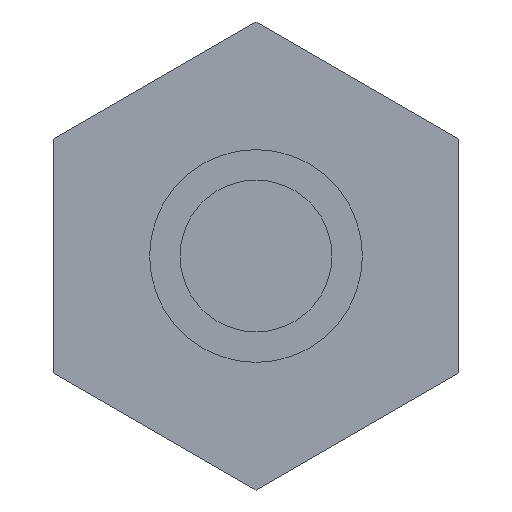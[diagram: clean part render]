
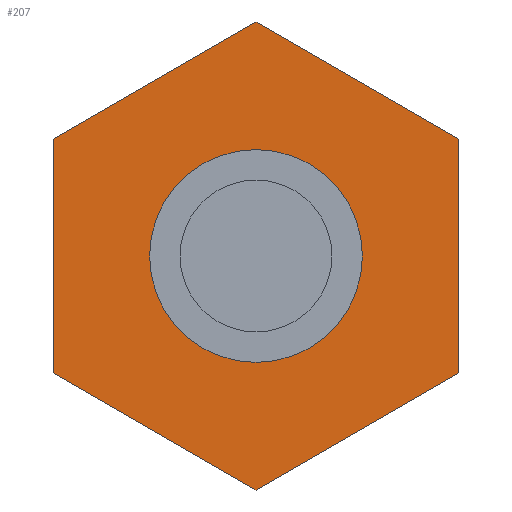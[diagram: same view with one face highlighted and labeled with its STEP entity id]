
A CAD part, left-side view. The second image highlights one B-rep face of the part: STEP entity #207.
In plain terms, the highlighted planar face has unit normal (-1, 0, 0).
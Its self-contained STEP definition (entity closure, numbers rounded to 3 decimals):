
#134 = CYLINDRICAL_SURFACE('',#135,2.1);
#135 = AXIS2_PLACEMENT_3D('',#136,#137,#138);
#136 = CARTESIAN_POINT('',(44.893,0.,232.));
#137 = DIRECTION('',(-1.,-0.,0.));
#138 = DIRECTION('',(0.,0.,-1.));
#154 = VERTEX_POINT('',#155);
#155 = CARTESIAN_POINT('',(48.903,0.,229.9));
#176 = EDGE_CURVE('',#154,#154,#177,.T.);
#177 = SURFACE_CURVE('',#178,(#183,#190),.PCURVE_S1.);
#178 = CIRCLE('',#179,2.1);
#179 = AXIS2_PLACEMENT_3D('',#180,#181,#182);
#180 = CARTESIAN_POINT('',(48.903,0.,232.));
#181 = DIRECTION('',(-1.,-0.,0.));
#182 = DIRECTION('',(0.,0.,-1.));
#183 = PCURVE('',#134,#184);
#184 = DEFINITIONAL_REPRESENTATION('',(#185),#189);
#185 = LINE('',#186,#187);
#186 = CARTESIAN_POINT('',(-6.283,-4.01));
#187 = VECTOR('',#188,1.);
#188 = DIRECTION('',(1.,-0.));
#189 = ( GEOMETRIC_REPRESENTATION_CONTEXT(2) 
PARAMETRIC_REPRESENTATION_CONTEXT() REPRESENTATION_CONTEXT('2D SPACE',''
  ) );
#190 = PCURVE('',#191,#196);
#191 = PLANE('',#192);
#192 = AXIS2_PLACEMENT_3D('',#193,#194,#195);
#193 = CARTESIAN_POINT('',(48.903,0.,232.));
#194 = DIRECTION('',(1.,0.,0.));
#195 = DIRECTION('',(0.,0.,-1.));
#196 = DEFINITIONAL_REPRESENTATION('',(#197),#205);
#197 = ( BOUNDED_CURVE() B_SPLINE_CURVE(2,(#198,#199,#200,#201,#202,#203
,#204),.UNSPECIFIED.,.T.,.F.) B_SPLINE_CURVE_WITH_KNOTS((1,2,2,2,2,1),(
    -2.094,0.,2.094,4.189,6.283,
8.378),.UNSPECIFIED.) CURVE() GEOMETRIC_REPRESENTATION_ITEM() 
RATIONAL_B_SPLINE_CURVE((1.,0.5,1.,0.5,1.,0.5,1.)) REPRESENTATION_ITEM(
  '') );
#198 = CARTESIAN_POINT('',(2.1,0.));
#199 = CARTESIAN_POINT('',(2.1,-3.637));
#200 = CARTESIAN_POINT('',(-1.05,-1.819));
#201 = CARTESIAN_POINT('',(-4.2,0.));
#202 = CARTESIAN_POINT('',(-1.05,1.819));
#203 = CARTESIAN_POINT('',(2.1,3.637));
#204 = CARTESIAN_POINT('',(2.1,0.));
#205 = ( GEOMETRIC_REPRESENTATION_CONTEXT(2) 
PARAMETRIC_REPRESENTATION_CONTEXT() REPRESENTATION_CONTEXT('2D SPACE',''
  ) );
#207 = ADVANCED_FACE('',(#208,#378),#191,.F.);
#208 = FACE_BOUND('',#209,.F.);
#209 = EDGE_LOOP('',(#210,#240,#268,#296,#324,#352));
#210 = ORIENTED_EDGE('',*,*,#211,.T.);
#211 = EDGE_CURVE('',#212,#214,#216,.T.);
#212 = VERTEX_POINT('',#213);
#213 = CARTESIAN_POINT('',(48.903,0.,227.381));
#214 = VERTEX_POINT('',#215);
#215 = CARTESIAN_POINT('',(48.903,4.,229.691));
#216 = SURFACE_CURVE('',#217,(#221,#228),.PCURVE_S1.);
#217 = LINE('',#218,#219);
#218 = CARTESIAN_POINT('',(48.903,0.,227.381));
#219 = VECTOR('',#220,1.);
#220 = DIRECTION('',(0.,0.866,0.5));
#221 = PCURVE('',#191,#222);
#222 = DEFINITIONAL_REPRESENTATION('',(#223),#227);
#223 = LINE('',#224,#225);
#224 = CARTESIAN_POINT('',(4.619,0.));
#225 = VECTOR('',#226,1.);
#226 = DIRECTION('',(-0.5,0.866));
#227 = ( GEOMETRIC_REPRESENTATION_CONTEXT(2) 
PARAMETRIC_REPRESENTATION_CONTEXT() REPRESENTATION_CONTEXT('2D SPACE',''
  ) );
#228 = PCURVE('',#229,#234);
#229 = PLANE('',#230);
#230 = AXIS2_PLACEMENT_3D('',#231,#232,#233);
#231 = CARTESIAN_POINT('',(48.903,0.,227.381));
#232 = DIRECTION('',(0.,-0.5,0.866));
#233 = DIRECTION('',(0.,0.866,0.5));
#234 = DEFINITIONAL_REPRESENTATION('',(#235),#239);
#235 = LINE('',#236,#237);
#236 = CARTESIAN_POINT('',(0.,0.));
#237 = VECTOR('',#238,1.);
#238 = DIRECTION('',(1.,0.));
#239 = ( GEOMETRIC_REPRESENTATION_CONTEXT(2) 
PARAMETRIC_REPRESENTATION_CONTEXT() REPRESENTATION_CONTEXT('2D SPACE',''
  ) );
#240 = ORIENTED_EDGE('',*,*,#241,.T.);
#241 = EDGE_CURVE('',#214,#242,#244,.T.);
#242 = VERTEX_POINT('',#243);
#243 = CARTESIAN_POINT('',(48.903,4.,234.309));
#244 = SURFACE_CURVE('',#245,(#249,#256),.PCURVE_S1.);
#245 = LINE('',#246,#247);
#246 = CARTESIAN_POINT('',(48.903,4.,229.691));
#247 = VECTOR('',#248,1.);
#248 = DIRECTION('',(0.,0.,1.));
#249 = PCURVE('',#191,#250);
#250 = DEFINITIONAL_REPRESENTATION('',(#251),#255);
#251 = LINE('',#252,#253);
#252 = CARTESIAN_POINT('',(2.309,4.));
#253 = VECTOR('',#254,1.);
#254 = DIRECTION('',(-1.,0.));
#255 = ( GEOMETRIC_REPRESENTATION_CONTEXT(2) 
PARAMETRIC_REPRESENTATION_CONTEXT() REPRESENTATION_CONTEXT('2D SPACE',''
  ) );
#256 = PCURVE('',#257,#262);
#257 = PLANE('',#258);
#258 = AXIS2_PLACEMENT_3D('',#259,#260,#261);
#259 = CARTESIAN_POINT('',(48.903,4.,229.691));
#260 = DIRECTION('',(0.,-1.,0.));
#261 = DIRECTION('',(0.,0.,1.));
#262 = DEFINITIONAL_REPRESENTATION('',(#263),#267);
#263 = LINE('',#264,#265);
#264 = CARTESIAN_POINT('',(0.,0.));
#265 = VECTOR('',#266,1.);
#266 = DIRECTION('',(1.,0.));
#267 = ( GEOMETRIC_REPRESENTATION_CONTEXT(2) 
PARAMETRIC_REPRESENTATION_CONTEXT() REPRESENTATION_CONTEXT('2D SPACE',''
  ) );
#268 = ORIENTED_EDGE('',*,*,#269,.T.);
#269 = EDGE_CURVE('',#242,#270,#272,.T.);
#270 = VERTEX_POINT('',#271);
#271 = CARTESIAN_POINT('',(48.903,0.,
    236.619));
#272 = SURFACE_CURVE('',#273,(#277,#284),.PCURVE_S1.);
#273 = LINE('',#274,#275);
#274 = CARTESIAN_POINT('',(48.903,4.,234.309));
#275 = VECTOR('',#276,1.);
#276 = DIRECTION('',(0.,-0.866,0.5));
#277 = PCURVE('',#191,#278);
#278 = DEFINITIONAL_REPRESENTATION('',(#279),#283);
#279 = LINE('',#280,#281);
#280 = CARTESIAN_POINT('',(-2.309,4.));
#281 = VECTOR('',#282,1.);
#282 = DIRECTION('',(-0.5,-0.866));
#283 = ( GEOMETRIC_REPRESENTATION_CONTEXT(2) 
PARAMETRIC_REPRESENTATION_CONTEXT() REPRESENTATION_CONTEXT('2D SPACE',''
  ) );
#284 = PCURVE('',#285,#290);
#285 = PLANE('',#286);
#286 = AXIS2_PLACEMENT_3D('',#287,#288,#289);
#287 = CARTESIAN_POINT('',(48.903,4.,234.309));
#288 = DIRECTION('',(0.,-0.5,-0.866));
#289 = DIRECTION('',(0.,-0.866,0.5));
#290 = DEFINITIONAL_REPRESENTATION('',(#291),#295);
#291 = LINE('',#292,#293);
#292 = CARTESIAN_POINT('',(0.,0.));
#293 = VECTOR('',#294,1.);
#294 = DIRECTION('',(1.,0.));
#295 = ( GEOMETRIC_REPRESENTATION_CONTEXT(2) 
PARAMETRIC_REPRESENTATION_CONTEXT() REPRESENTATION_CONTEXT('2D SPACE',''
  ) );
#296 = ORIENTED_EDGE('',*,*,#297,.T.);
#297 = EDGE_CURVE('',#270,#298,#300,.T.);
#298 = VERTEX_POINT('',#299);
#299 = CARTESIAN_POINT('',(48.903,-4.,234.309));
#300 = SURFACE_CURVE('',#301,(#305,#312),.PCURVE_S1.);
#301 = LINE('',#302,#303);
#302 = CARTESIAN_POINT('',(48.903,0.,
    236.619));
#303 = VECTOR('',#304,1.);
#304 = DIRECTION('',(0.,-0.866,-0.5));
#305 = PCURVE('',#191,#306);
#306 = DEFINITIONAL_REPRESENTATION('',(#307),#311);
#307 = LINE('',#308,#309);
#308 = CARTESIAN_POINT('',(-4.619,0.));
#309 = VECTOR('',#310,1.);
#310 = DIRECTION('',(0.5,-0.866));
#311 = ( GEOMETRIC_REPRESENTATION_CONTEXT(2) 
PARAMETRIC_REPRESENTATION_CONTEXT() REPRESENTATION_CONTEXT('2D SPACE',''
  ) );
#312 = PCURVE('',#313,#318);
#313 = PLANE('',#314);
#314 = AXIS2_PLACEMENT_3D('',#315,#316,#317);
#315 = CARTESIAN_POINT('',(48.903,0.,
    236.619));
#316 = DIRECTION('',(0.,0.5,-0.866));
#317 = DIRECTION('',(0.,-0.866,-0.5));
#318 = DEFINITIONAL_REPRESENTATION('',(#319),#323);
#319 = LINE('',#320,#321);
#320 = CARTESIAN_POINT('',(0.,0.));
#321 = VECTOR('',#322,1.);
#322 = DIRECTION('',(1.,0.));
#323 = ( GEOMETRIC_REPRESENTATION_CONTEXT(2) 
PARAMETRIC_REPRESENTATION_CONTEXT() REPRESENTATION_CONTEXT('2D SPACE',''
  ) );
#324 = ORIENTED_EDGE('',*,*,#325,.T.);
#325 = EDGE_CURVE('',#298,#326,#328,.T.);
#326 = VERTEX_POINT('',#327);
#327 = CARTESIAN_POINT('',(48.903,-4.,229.691));
#328 = SURFACE_CURVE('',#329,(#333,#340),.PCURVE_S1.);
#329 = LINE('',#330,#331);
#330 = CARTESIAN_POINT('',(48.903,-4.,234.309));
#331 = VECTOR('',#332,1.);
#332 = DIRECTION('',(0.,0.,-1.));
#333 = PCURVE('',#191,#334);
#334 = DEFINITIONAL_REPRESENTATION('',(#335),#339);
#335 = LINE('',#336,#337);
#336 = CARTESIAN_POINT('',(-2.309,-4.));
#337 = VECTOR('',#338,1.);
#338 = DIRECTION('',(1.,0.));
#339 = ( GEOMETRIC_REPRESENTATION_CONTEXT(2) 
PARAMETRIC_REPRESENTATION_CONTEXT() REPRESENTATION_CONTEXT('2D SPACE',''
  ) );
#340 = PCURVE('',#341,#346);
#341 = PLANE('',#342);
#342 = AXIS2_PLACEMENT_3D('',#343,#344,#345);
#343 = CARTESIAN_POINT('',(48.903,-4.,234.309));
#344 = DIRECTION('',(0.,1.,0.));
#345 = DIRECTION('',(0.,0.,-1.));
#346 = DEFINITIONAL_REPRESENTATION('',(#347),#351);
#347 = LINE('',#348,#349);
#348 = CARTESIAN_POINT('',(0.,0.));
#349 = VECTOR('',#350,1.);
#350 = DIRECTION('',(1.,0.));
#351 = ( GEOMETRIC_REPRESENTATION_CONTEXT(2) 
PARAMETRIC_REPRESENTATION_CONTEXT() REPRESENTATION_CONTEXT('2D SPACE',''
  ) );
#352 = ORIENTED_EDGE('',*,*,#353,.T.);
#353 = EDGE_CURVE('',#326,#212,#354,.T.);
#354 = SURFACE_CURVE('',#355,(#359,#366),.PCURVE_S1.);
#355 = LINE('',#356,#357);
#356 = CARTESIAN_POINT('',(48.903,-4.,229.691));
#357 = VECTOR('',#358,1.);
#358 = DIRECTION('',(0.,0.866,-0.5));
#359 = PCURVE('',#191,#360);
#360 = DEFINITIONAL_REPRESENTATION('',(#361),#365);
#361 = LINE('',#362,#363);
#362 = CARTESIAN_POINT('',(2.309,-4.));
#363 = VECTOR('',#364,1.);
#364 = DIRECTION('',(0.5,0.866));
#365 = ( GEOMETRIC_REPRESENTATION_CONTEXT(2) 
PARAMETRIC_REPRESENTATION_CONTEXT() REPRESENTATION_CONTEXT('2D SPACE',''
  ) );
#366 = PCURVE('',#367,#372);
#367 = PLANE('',#368);
#368 = AXIS2_PLACEMENT_3D('',#369,#370,#371);
#369 = CARTESIAN_POINT('',(48.903,-4.,229.691));
#370 = DIRECTION('',(0.,0.5,0.866));
#371 = DIRECTION('',(0.,0.866,-0.5));
#372 = DEFINITIONAL_REPRESENTATION('',(#373),#377);
#373 = LINE('',#374,#375);
#374 = CARTESIAN_POINT('',(0.,0.));
#375 = VECTOR('',#376,1.);
#376 = DIRECTION('',(1.,0.));
#377 = ( GEOMETRIC_REPRESENTATION_CONTEXT(2) 
PARAMETRIC_REPRESENTATION_CONTEXT() REPRESENTATION_CONTEXT('2D SPACE',''
  ) );
#378 = FACE_BOUND('',#379,.F.);
#379 = EDGE_LOOP('',(#380));
#380 = ORIENTED_EDGE('',*,*,#176,.T.);
